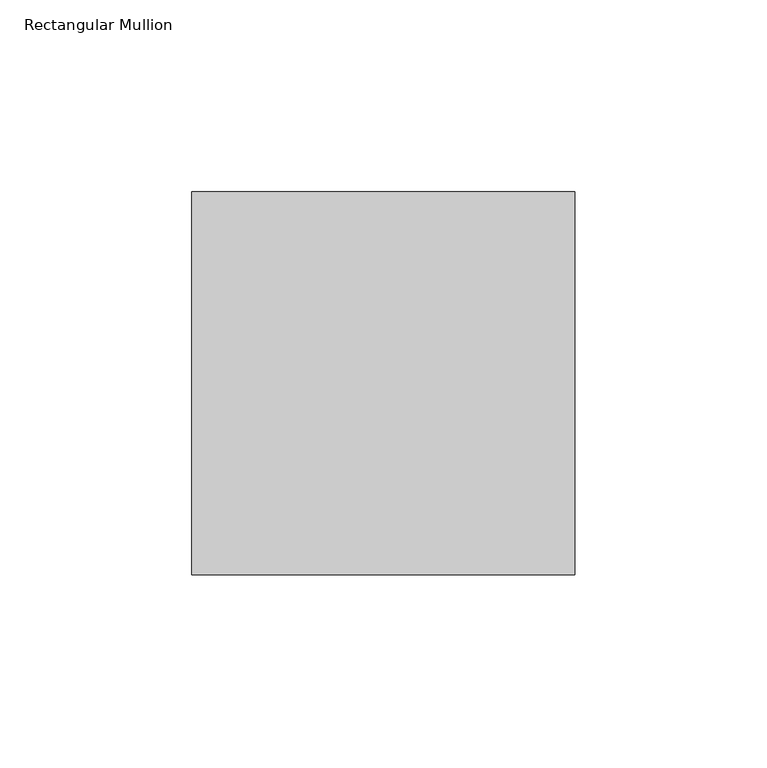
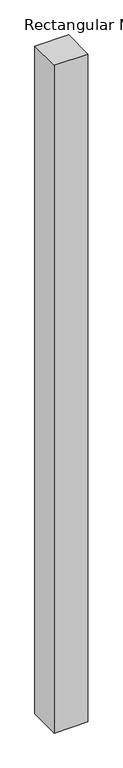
"""IFC4 building model written with IfcOpenShell, lengths in millimetres: member geometry, Rectangular Mullion : ARQ_REJA_PILAR_100x100mm."""

import ifcopenshell
import ifcopenshell.guid

model = None  # the IFC model being written
_history = None  # IfcOwnerHistory: only IFC2X3 demands one
_inside = {}  # id of a spatial element -> (the spatial element, [elements in it])
_under = {}  # id of a project, library or spatial element -> (it, [spatial elements below it])
_declared = {}  # id of a project -> (the project, [libraries it declares])
_typed = {}  # id of a type object -> (the type object, [elements of that type])
_made_of = {}  # id of a material, layer set ... -> (it, [elements and type objects made of it])


def new_model(schema):
    """Start an empty IFC model of exactly this schema.

    Asked for "IFC4X3", IfcOpenShell would pick the latest addendum, in which some entities
    have other attributes; the version numbers below select the first issue.
    IFC2X3 requires an IfcOwnerHistory on every rooted entity: one is made here for all.
    """
    global model, _history
    if schema == "IFC4X3":
        model = ifcopenshell.file(schema_version=(4, 3, 0, 0))
    else:
        model = ifcopenshell.file(schema=schema)
    _inside.clear()
    _under.clear()
    _declared.clear()
    _typed.clear()
    _made_of.clear()
    _history = None
    if model.schema == "IFC2X3":
        org = make("IfcOrganization", Name="unknown")
        user = make(
            "IfcPersonAndOrganization",
            ThePerson=make("IfcPerson", FamilyName="unknown"),
            TheOrganization=org,
        )
        app = make(
            "IfcApplication",
            ApplicationDeveloper=org,
            Version="unknown",
            ApplicationFullName="unknown",
            ApplicationIdentifier="unknown",
        )
        _history = make(
            "IfcOwnerHistory",
            OwningUser=user,
            OwningApplication=app,
            ChangeAction="ADDED",
            CreationDate=0,
        )
    return model


def make(cls, **values):
    """One entity of the class cls with the attributes given. An attribute that is None is left unset."""
    return model.create_entity(
        cls, **{name: value for name, value in values.items() if value is not None}
    )


def rooted(cls, **values):
    """An entity with a GlobalId (a new one), such as an element, a storey or a relation."""
    return make(cls, GlobalId=ifcopenshell.guid.new(), OwnerHistory=_history, **values)


def si_unit(unit_type, name, prefix=None):
    """IfcSIUnit, for example si_unit("LENGTHUNIT", "METRE", prefix="MILLI")."""
    return make("IfcSIUnit", UnitType=unit_type, Prefix=prefix, Name=name)


def assignment(units):
    """IfcUnitAssignment: the units of a project."""
    return None if units is None else make("IfcUnitAssignment", Units=units)


def point(xyz):
    """IfcCartesianPoint."""
    return None if xyz is None else make("IfcCartesianPoint", Coordinates=xyz)


def direction(xyz):
    """IfcDirection."""
    return None if xyz is None else make("IfcDirection", DirectionRatios=xyz)


def frame(location, z_axis=None, x_axis=None):
    """IfcAxis2Placement3D, a coordinate frame: its origin and axes. An axis left out is left unset."""
    return make(
        "IfcAxis2Placement3D",
        Location=point(location),
        Axis=direction(z_axis),
        RefDirection=direction(x_axis),
    )


def origin():
    """The frame at (0, 0, 0) with its axes left unset."""
    return frame((0.0, 0.0, 0.0))


def place(relative_to, where):
    """IfcLocalPlacement: puts the frame where relative to a parent placement (None: the world)."""
    return make(
        "IfcLocalPlacement", PlacementRelTo=relative_to, RelativePlacement=where
    )


def context(
    kind, dimensions, precision=None, world=None, true_north=None, identifier=None
):
    """IfcGeometricRepresentationContext, for example the 3D "Model" context."""
    return make(
        "IfcGeometricRepresentationContext",
        ContextIdentifier=identifier,
        ContextType=kind,
        CoordinateSpaceDimension=dimensions,
        Precision=precision,
        WorldCoordinateSystem=world,
        TrueNorth=true_north,
    )


def project(units=None, contexts=None):
    """IfcProject with its units and contexts."""
    return rooted(
        "IfcProject",
        Name="project",
        RepresentationContexts=contexts,
        UnitsInContext=assignment(units),
    )


def spatial(cls, under=None, at=None, **own):
    """A site, building, storey or space (cls), placed at a placement, below another one or the project."""
    s = rooted(cls, ObjectPlacement=at, **own)
    if under is not None:
        _under.setdefault(under.id(), (under, []))[1].append(s)
    return s


def polyline(points):
    """IfcPolyline through the points."""
    return make("IfcPolyline", Points=[point(p) for p in points])


def outline(outer, holes=None, kind="AREA"):
    """IfcArbitraryClosedProfileDef: a profile drawn as a closed curve; with holes, ...WithVoids."""
    if holes is None:
        return make("IfcArbitraryClosedProfileDef", ProfileType=kind, OuterCurve=outer)
    return make(
        "IfcArbitraryProfileDefWithVoids",
        ProfileType=kind,
        OuterCurve=outer,
        InnerCurves=holes,
    )


def extrude(swept, where, along, depth):
    """IfcExtrudedAreaSolid: the profile swept, set in the frame where, extruded along a direction by depth."""
    return make(
        "IfcExtrudedAreaSolid",
        SweptArea=swept,
        Position=where,
        ExtrudedDirection=direction(along),
        Depth=depth,
    )


def shape(context_of_items, identifier, shape_type, items):
    """IfcShapeRepresentation: the items that make up one representation, for example the "Body"."""
    return make(
        "IfcShapeRepresentation",
        ContextOfItems=context_of_items,
        RepresentationIdentifier=identifier,
        RepresentationType=shape_type,
        Items=items,
    )


def source(mapping_origin, context_of_items, identifier, shape_type, items):
    """IfcRepresentationMap: a shape defined once, which mapped items show again and again."""
    return make(
        "IfcRepresentationMap",
        MappingOrigin=mapping_origin,
        MappedRepresentation=shape(context_of_items, identifier, shape_type, items),
    )


def transform(
    local_origin,
    x_axis=None,
    y_axis=None,
    z_axis=None,
    scale=None,
    scale2=None,
    scale3=None,
    uniform=True,
):
    """IfcCartesianTransformationOperator3D, or its non-uniform kind. x_axis, y_axis, z_axis: its Axis1, 2, 3."""
    if uniform:
        return make(
            "IfcCartesianTransformationOperator3D",
            Axis1=direction(x_axis),
            Axis2=direction(y_axis),
            LocalOrigin=point(local_origin),
            Scale=scale,
            Axis3=direction(z_axis),
        )
    return make(
        "IfcCartesianTransformationOperator3DnonUniform",
        Axis1=direction(x_axis),
        Axis2=direction(y_axis),
        LocalOrigin=point(local_origin),
        Scale=scale,
        Axis3=direction(z_axis),
        Scale2=scale2,
        Scale3=scale3,
    )


def mapped(mapping_source, mapping_target):
    """IfcMappedItem: shows the shape of a source again, moved by a transform."""
    return make(
        "IfcMappedItem", MappingSource=mapping_source, MappingTarget=mapping_target
    )


def made_of(thing, what):
    """Note that an element or type object is made of a material, layer set ...; save() writes the relation."""
    if what is not None:
        _made_of.setdefault(what.id(), (what, []))[1].append(thing)
    return thing


def element(
    cls,
    number,
    at=None,
    inside=None,
    cuts=None,
    type_object=None,
    material=None,
    context=None,
    identifier="Body",
    shape_type=None,
    held_by="IfcProductDefinitionShape",
    body=None,
    shapes=None,
    **own,
):
    """One element of the class cls, such as IfcWall. Its Tag is "e" and its number.

    at: its placement. inside: the storey or other place that contains it. cuts: it is an
    opening in that element (IfcRelVoidsElement). A single representation is given by context,
    identifier, shape_type and body (its items); several are given by shapes. held_by: the class
    of the entity that holds the representations. save() writes the other relations.
    """
    e = rooted(cls, Tag="e%d" % number, ObjectPlacement=at, **own)
    if body is not None:
        shapes = [shape(context, identifier, shape_type, body)]
    if shapes is not None:
        e.Representation = make(held_by, Representations=shapes)
    if inside is not None:
        _inside.setdefault(inside.id(), (inside, []))[1].append(e)
    if cuts is not None:
        rooted(
            "IfcRelVoidsElement", RelatingBuildingElement=cuts, RelatedOpeningElement=e
        )
    if type_object is not None:
        _typed.setdefault(type_object.id(), (type_object, []))[1].append(e)
    return made_of(e, material)


def aggregate(whole, parts):
    """IfcRelAggregates: a whole, such as a stair, and the parts it consists of."""
    return rooted("IfcRelAggregates", RelatingObject=whole, RelatedObjects=parts)


def save(model, path):
    """Write the relations noted so far, then the file.

    IfcRelAggregates (storeys below a building ...), IfcRelContainedInSpatialStructure (elements
    in a storey), IfcRelDefinesByType, IfcRelAssociatesMaterial and IfcRelDeclares: one each for
    every whole, place, type object, material and project.
    """
    for whole, parts in _under.values():
        aggregate(whole, parts)
    for where, things in _inside.values():
        rooted(
            "IfcRelContainedInSpatialStructure",
            RelatedElements=things,
            RelatingStructure=where,
        )
    for kind, things in _typed.values():
        rooted("IfcRelDefinesByType", RelatedObjects=things, RelatingType=kind)
    for what, things in _made_of.values():
        rooted("IfcRelAssociatesMaterial", RelatedObjects=things, RelatingMaterial=what)
    for by, libraries in _declared.values():
        rooted("IfcRelDeclares", RelatingContext=by, RelatedDefinitions=libraries)
    model.write(path)


def rectangular_mullion_c413cd77(model_context):
    return source(origin(), model_context, "Body", "SweptSolid", [
        extrude(outline(polyline([(50.0, 50.0), (50.0, -50.0), (-50.0, -50.0), (-50.0, 50.0), (50.0, 50.0)])), frame((0.0, 0.0, -2100.0), z_axis=(0.0, 0.0, 1.0), x_axis=(1.0, 0.0, 0.0)), (0.0, 0.0, 1.0), 2100.0),
    ])


if __name__ == "__main__":
    model = new_model("IFC4")
    model_context = context("Model", 3, world=origin())
    ifc_project = project(units=[si_unit("LENGTHUNIT", "METRE", prefix="MILLI")], contexts=[model_context])
    site = spatial("IfcSite", under=ifc_project)
    building = spatial("IfcBuilding", under=site)
    placement = place(None, origin())
    rectangular_mullion_shape = rectangular_mullion_c413cd77(model_context)
    element("IfcMember", 1, ObjectType="Rectangular Mullion : ARQ_REJA_PILAR_100x100mm", at=placement, inside=building, context=model_context, shape_type="MappedRepresentation", body=[
        mapped(rectangular_mullion_shape, transform((0.0, 0.0, 0.0), x_axis=(1.0, 0.0, 0.0), y_axis=(0.0, 1.0, 0.0), z_axis=(0.0, 0.0, 1.0))),
    ])
    save(model, "model.ifc")
